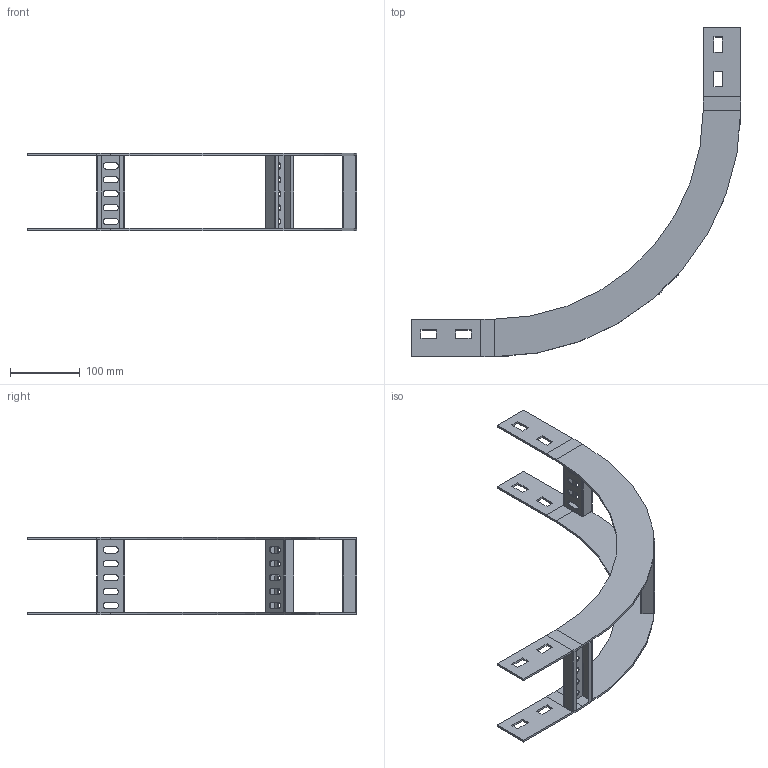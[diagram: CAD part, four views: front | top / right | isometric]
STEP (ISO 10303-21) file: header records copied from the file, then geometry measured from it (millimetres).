
FILE_DESCRIPTION(/* description */ ('','CAx-IF Rec.Pracs.---Representation and Presentation of Product Manufacturing Information (PMI)---4.0---2014-10-13'),/* implementation_level */ '2;1');
FILE_NAME(/* name */ 'Eurostrut_EIR60-100-90-300_Inside Riser for Cable Ladder ECL.step',/* time_stamp */ '2026-09-03T10:03:07+02:00',/* author */ (''),/* organization */ (''),/* preprocessor_version */ 'ST-DEVELOPER v20.1',/* originating_system */ 'Autodesk Revit 2027 27.2.0.39',/* authorisation */ '');
FILE_SCHEMA (('AP242_MANAGED_MODEL_BASED_3D_ENGINEERING_MIM_LF { 1 0 10303 442 2 1 4 }'));
Length unit declared in the file: millimetre
Products named in the file (8): TopLevelAssembly; Sweep; Extrusion; Extrusion_1; Extrusion_2; Extrusion_3; Eurostrut_Cable Ladder_Rung_V2 Vertical_Array EIR_Slotted; Eurostrut_Cable Ladder_Accessory End_54-94-142
Assembly tree (10 placements, depth 2):
  TopLevelAssembly
    Sweep
    Extrusion
    Extrusion_1
    Extrusion_2
    Extrusion_3
    Eurostrut_Cable Ladder_Rung_V2 Vertical_Array EIR_Slotted
    Eurostrut_Cable Ladder_Accessory End_54-94-142  x4
Bounding box: 474 x 474 x 111 mm (x, y, z)
Volume: 275227.3 mm3; surface area: 225276.2 mm2
Topology: 13 solids, 13 shells, 206 faces, 540 edges, 360 vertices
Faces by surface type: plane 160, bspline 30, cylinder 16
Entity records: 6142 total; most frequent: CARTESIAN_POINT 1832, ORIENTED_EDGE 864, DIRECTION 828, EDGE_CURVE 432, LINE 340, VECTOR 340, VERTEX_POINT 288, AXIS2_PLACEMENT_3D 244
